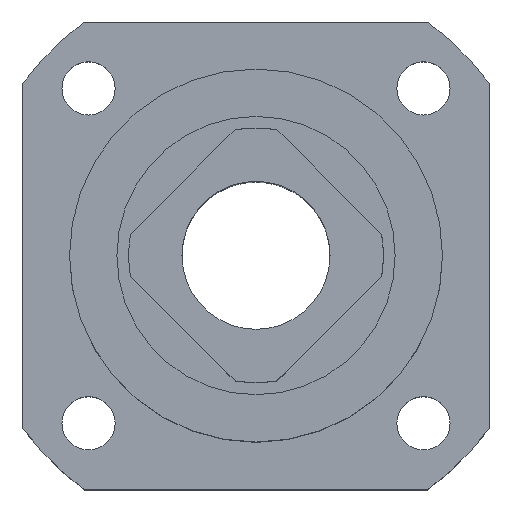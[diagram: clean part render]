
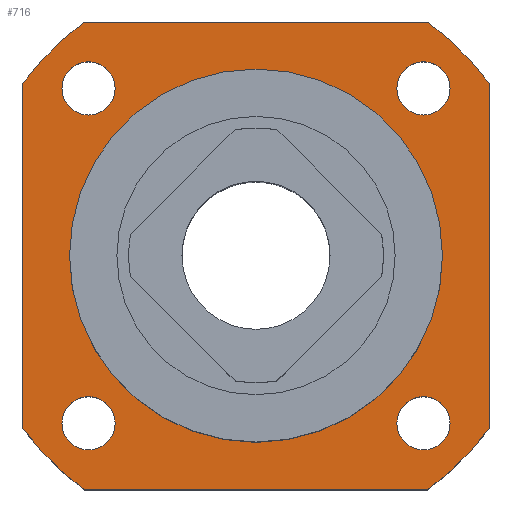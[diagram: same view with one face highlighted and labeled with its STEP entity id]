
A CAD part, top view. The second image highlights one B-rep face of the part: STEP entity #716.
In plain terms, the highlighted planar face has unit normal (0, 0, 1).
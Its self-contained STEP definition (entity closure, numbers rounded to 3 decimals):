
#35=LINE($,#1340,#67);
#38=LINE($,#1348,#70);
#41=LINE($,#1356,#73);
#44=LINE($,#1363,#76);
#67=VECTOR($,#1000,57.991);
#70=VECTOR($,#1009,57.991);
#73=VECTOR($,#1018,57.991);
#76=VECTOR($,#1027,57.991);
#190=FACE_BOUND($,#278,.T.);
#191=FACE_BOUND($,#279,.T.);
#192=FACE_BOUND($,#280,.T.);
#193=FACE_BOUND($,#281,.T.);
#194=FACE_BOUND($,#282,.T.);
#195=FACE_BOUND($,#283,.T.);
#278=EDGE_LOOP($,(#637));
#279=EDGE_LOOP($,(#638));
#280=EDGE_LOOP($,(#639));
#281=EDGE_LOOP($,(#640));
#282=EDGE_LOOP($,(#641));
#283=EDGE_LOOP($,(#642,#643,#644,#645,#646,#647,#648,#649));
#320=CIRCLE($,#788,4.5);
#321=CIRCLE($,#790,4.5);
#322=CIRCLE($,#792,4.5);
#323=CIRCLE($,#794,4.5);
#325=CIRCLE($,#797,31.5);
#326=CIRCLE($,#800,49.);
#327=CIRCLE($,#803,49.);
#328=CIRCLE($,#806,49.);
#329=CIRCLE($,#809,49.);
#384=VERTEX_POINT($,#1315);
#385=VERTEX_POINT($,#1318);
#386=VERTEX_POINT($,#1321);
#387=VERTEX_POINT($,#1324);
#389=VERTEX_POINT($,#1329);
#390=VERTEX_POINT($,#1333);
#391=VERTEX_POINT($,#1335);
#392=VERTEX_POINT($,#1339);
#393=VERTEX_POINT($,#1343);
#394=VERTEX_POINT($,#1347);
#395=VERTEX_POINT($,#1351);
#396=VERTEX_POINT($,#1355);
#397=VERTEX_POINT($,#1359);
#460=EDGE_CURVE($,#384,#384,#320,.T.);
#461=EDGE_CURVE($,#385,#385,#321,.T.);
#462=EDGE_CURVE($,#386,#386,#322,.T.);
#463=EDGE_CURVE($,#387,#387,#323,.T.);
#465=EDGE_CURVE($,#389,#389,#325,.T.);
#467=EDGE_CURVE($,#391,#390,#326,.T.);
#469=EDGE_CURVE($,#392,#391,#35,.T.);
#471=EDGE_CURVE($,#393,#392,#327,.T.);
#473=EDGE_CURVE($,#394,#393,#38,.T.);
#475=EDGE_CURVE($,#395,#394,#328,.T.);
#477=EDGE_CURVE($,#396,#395,#41,.T.);
#479=EDGE_CURVE($,#397,#396,#329,.T.);
#481=EDGE_CURVE($,#390,#397,#44,.T.);
#637=ORIENTED_EDGE($,*,*,#460,.T.);
#638=ORIENTED_EDGE($,*,*,#461,.T.);
#639=ORIENTED_EDGE($,*,*,#462,.T.);
#640=ORIENTED_EDGE($,*,*,#463,.T.);
#641=ORIENTED_EDGE($,*,*,#465,.T.);
#642=ORIENTED_EDGE($,*,*,#481,.T.);
#643=ORIENTED_EDGE($,*,*,#479,.T.);
#644=ORIENTED_EDGE($,*,*,#477,.T.);
#645=ORIENTED_EDGE($,*,*,#475,.T.);
#646=ORIENTED_EDGE($,*,*,#473,.T.);
#647=ORIENTED_EDGE($,*,*,#471,.T.);
#648=ORIENTED_EDGE($,*,*,#469,.T.);
#649=ORIENTED_EDGE($,*,*,#467,.T.);
#670=PLANE($,#811);
#716=ADVANCED_FACE($,(#190,#191,#192,#193,#194,#195),#670,.T.);
#788=AXIS2_PLACEMENT_3D($,#1316,#970,#971);
#790=AXIS2_PLACEMENT_3D($,#1319,#974,#975);
#792=AXIS2_PLACEMENT_3D($,#1322,#978,#979);
#794=AXIS2_PLACEMENT_3D($,#1325,#982,#983);
#797=AXIS2_PLACEMENT_3D($,#1330,#988,#989);
#800=AXIS2_PLACEMENT_3D($,#1336,#995,#996);
#803=AXIS2_PLACEMENT_3D($,#1344,#1004,#1005);
#806=AXIS2_PLACEMENT_3D($,#1352,#1013,#1014);
#809=AXIS2_PLACEMENT_3D($,#1360,#1022,#1023);
#811=AXIS2_PLACEMENT_3D($,#1364,#1028,#1029);
#970=DIRECTION('center_axis',(0.,0.,-1.));
#971=DIRECTION('ref_axis',(-1.,0.,0.));
#974=DIRECTION('center_axis',(0.,0.,-1.));
#975=DIRECTION('ref_axis',(-1.,0.,0.));
#978=DIRECTION('center_axis',(0.,0.,-1.));
#979=DIRECTION('ref_axis',(-1.,0.,0.));
#982=DIRECTION('center_axis',(0.,0.,-1.));
#983=DIRECTION('ref_axis',(-1.,0.,0.));
#988=DIRECTION('center_axis',(0.,0.,-1.));
#989=DIRECTION('ref_axis',(-1.,0.,0.));
#995=DIRECTION('center_axis',(0.,0.,1.));
#996=DIRECTION('ref_axis',(-0.806,-0.592,0.));
#1000=DIRECTION($,(0.,1.,0.));
#1004=DIRECTION('center_axis',(0.,0.,1.));
#1005=DIRECTION('ref_axis',(-0.592,0.806,0.));
#1009=DIRECTION($,(1.,0.,0.));
#1013=DIRECTION('center_axis',(0.,0.,1.));
#1014=DIRECTION('ref_axis',(0.806,0.592,0.));
#1018=DIRECTION($,(0.,-1.,0.));
#1022=DIRECTION('center_axis',(0.,0.,1.));
#1023=DIRECTION('ref_axis',(0.592,-0.806,0.));
#1027=DIRECTION($,(-1.,0.,0.));
#1028=DIRECTION('center_axis',(0.,0.,1.));
#1029=DIRECTION('ref_axis',(1.,0.,0.));
#1315=CARTESIAN_POINT('',(-23.784,-28.284,14.));
#1316=CARTESIAN_POINT('Origin',(-28.284,-28.284,14.));
#1318=CARTESIAN_POINT('',(32.784,28.284,14.));
#1319=CARTESIAN_POINT('Origin',(28.284,28.284,14.));
#1321=CARTESIAN_POINT('',(32.784,-28.284,14.));
#1322=CARTESIAN_POINT('Origin',(28.284,-28.284,14.));
#1324=CARTESIAN_POINT('',(-23.784,28.284,14.));
#1325=CARTESIAN_POINT('Origin',(-28.284,28.284,14.));
#1329=CARTESIAN_POINT('',(31.5,0.,14.));
#1330=CARTESIAN_POINT('Origin',(0.,0.,14.));
#1333=CARTESIAN_POINT('',(28.996,39.5,14.));
#1335=CARTESIAN_POINT('',(39.5,28.996,14.));
#1336=CARTESIAN_POINT('Origin',(0.,0.,14.));
#1339=CARTESIAN_POINT('',(39.5,-28.996,14.));
#1340=CARTESIAN_POINT($,(39.5,28.996,14.));
#1343=CARTESIAN_POINT('',(28.996,-39.5,14.));
#1344=CARTESIAN_POINT('Origin',(0.,0.,14.));
#1347=CARTESIAN_POINT('',(-28.996,-39.5,14.));
#1348=CARTESIAN_POINT($,(28.996,-39.5,14.));
#1351=CARTESIAN_POINT('',(-39.5,-28.996,14.));
#1352=CARTESIAN_POINT('Origin',(0.,0.,14.));
#1355=CARTESIAN_POINT('',(-39.5,28.996,14.));
#1356=CARTESIAN_POINT($,(-39.5,-28.996,14.));
#1359=CARTESIAN_POINT('',(-28.996,39.5,14.));
#1360=CARTESIAN_POINT('Origin',(0.,0.,14.));
#1363=CARTESIAN_POINT($,(-28.996,39.5,14.));
#1364=CARTESIAN_POINT('Origin',(0.,0.,
14.));
